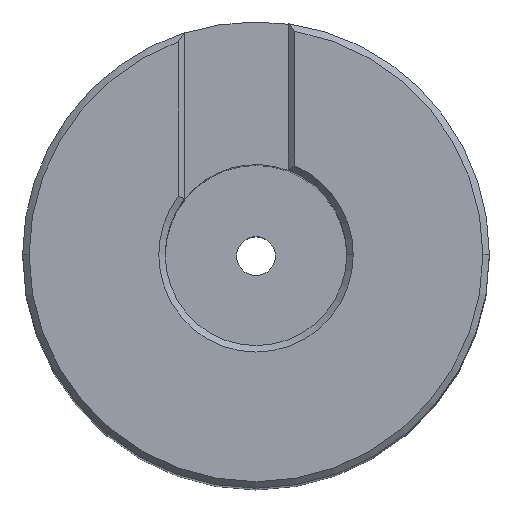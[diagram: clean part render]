
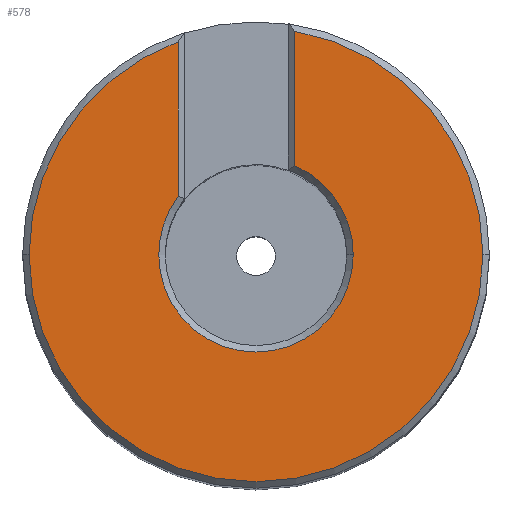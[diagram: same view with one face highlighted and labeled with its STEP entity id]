
A CAD part, top view. The second image highlights one B-rep face of the part: STEP entity #578.
In plain terms, the highlighted planar face has unit normal (0, 0, 1).
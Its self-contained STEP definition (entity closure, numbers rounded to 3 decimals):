
#439=AXIS2_PLACEMENT_3D('Circle Axis2P3D',#437,#438,$) ;
#464=AXIS2_PLACEMENT_3D('Circle Axis2P3D',#462,#463,$) ;
#489=AXIS2_PLACEMENT_3D('Circle Axis2P3D',#487,#488,$) ;
#533=AXIS2_PLACEMENT_3D('Plane Axis2P3D',#530,#531,#532) ;
#551=AXIS2_PLACEMENT_3D('Circle Axis2P3D',#549,#550,$) ;
#558=AXIS2_PLACEMENT_3D('Circle Axis2P3D',#556,#557,$) ;
#565=AXIS2_PLACEMENT_3D('Circle Axis2P3D',#563,#564,$) ;
#427=CARTESIAN_POINT('Vertex',(-17.5,0.,80.)) ;
#434=CARTESIAN_POINT('Vertex',(17.5,0.,80.)) ;
#437=CARTESIAN_POINT('Axis2P3D Location',(0.,0.,80.)) ;
#459=CARTESIAN_POINT('Vertex',(3.,17.241,80.)) ;
#462=CARTESIAN_POINT('Axis2P3D Location',(0.,0.,80.)) ;
#484=CARTESIAN_POINT('Vertex',(-6.,16.439,80.)) ;
#487=CARTESIAN_POINT('Axis2P3D Location',(0.,0.,80.)) ;
#530=CARTESIAN_POINT('Axis2P3D Location',(0.,0.,80.)) ;
#535=CARTESIAN_POINT('Line Origine',(-6.,10.47,80.)) ;
#539=CARTESIAN_POINT('Vertex',(-6.,4.5,80.)) ;
#542=CARTESIAN_POINT('Line Origine',(3.,12.057,80.)) ;
#546=CARTESIAN_POINT('Vertex',(3.,6.874,80.)) ;
#549=CARTESIAN_POINT('Axis2P3D Location',(0.,0.,80.)) ;
#553=CARTESIAN_POINT('Vertex',(7.5,0.,80.)) ;
#556=CARTESIAN_POINT('Axis2P3D Location',(0.,0.,80.)) ;
#560=CARTESIAN_POINT('Vertex',(-7.5,0.,80.)) ;
#563=CARTESIAN_POINT('Axis2P3D Location',(0.,0.,80.)) ;
#438=DIRECTION('Axis2P3D Direction',(0.,0.,1.)) ;
#463=DIRECTION('Axis2P3D Direction',(-0.,0.,1.)) ;
#488=DIRECTION('Axis2P3D Direction',(0.,0.,1.)) ;
#531=DIRECTION('Axis2P3D Direction',(0.,0.,1.)) ;
#532=DIRECTION('Axis2P3D XDirection',(1.,0.,0.)) ;
#536=DIRECTION('Vector Direction',(0.,-1.,0.)) ;
#543=DIRECTION('Vector Direction',(0.,1.,0.)) ;
#550=DIRECTION('Axis2P3D Direction',(0.,0.,1.)) ;
#557=DIRECTION('Axis2P3D Direction',(0.,0.,1.)) ;
#564=DIRECTION('Axis2P3D Direction',(0.,0.,1.)) ;
#537=VECTOR('Line Direction',#536,1.) ;
#544=VECTOR('Line Direction',#543,1.) ;
#569=ORIENTED_EDGE('',*,*,#541,.T.) ;
#570=ORIENTED_EDGE('',*,*,#491,.T.) ;
#571=ORIENTED_EDGE('',*,*,#441,.T.) ;
#572=ORIENTED_EDGE('',*,*,#466,.T.) ;
#573=ORIENTED_EDGE('',*,*,#548,.T.) ;
#574=ORIENTED_EDGE('',*,*,#555,.F.) ;
#575=ORIENTED_EDGE('',*,*,#562,.F.) ;
#576=ORIENTED_EDGE('',*,*,#567,.F.) ;
#578=ADVANCED_FACE('\X2\96F64EF651E04F554F53\X0\',(#577),#534,.T.) ;
#440=CIRCLE('generated circle',#439,17.5) ;
#465=CIRCLE('generated circle',#464,17.5) ;
#490=CIRCLE('generated circle',#489,17.5) ;
#552=CIRCLE('generated circle',#551,7.5) ;
#559=CIRCLE('generated circle',#558,7.5) ;
#566=CIRCLE('generated circle',#565,7.5) ;
#441=EDGE_CURVE('',#428,#435,#440,.T.) ;
#466=EDGE_CURVE('',#435,#460,#465,.T.) ;
#491=EDGE_CURVE('',#485,#428,#490,.T.) ;
#541=EDGE_CURVE('',#540,#485,#538,.F.) ;
#548=EDGE_CURVE('',#460,#547,#545,.F.) ;
#555=EDGE_CURVE('',#554,#547,#552,.T.) ;
#562=EDGE_CURVE('',#561,#554,#559,.T.) ;
#567=EDGE_CURVE('',#540,#561,#566,.T.) ;
#568=EDGE_LOOP('',(#569,#570,#571,#572,#573,#574,#575,#576)) ;
#577=FACE_OUTER_BOUND('',#568,.T.) ;
#538=LINE('Line',#535,#537) ;
#545=LINE('Line',#542,#544) ;
#534=PLANE('',#533) ;
#428=VERTEX_POINT('',#427) ;
#435=VERTEX_POINT('',#434) ;
#460=VERTEX_POINT('',#459) ;
#485=VERTEX_POINT('',#484) ;
#540=VERTEX_POINT('',#539) ;
#547=VERTEX_POINT('',#546) ;
#554=VERTEX_POINT('',#553) ;
#561=VERTEX_POINT('',#560) ;
